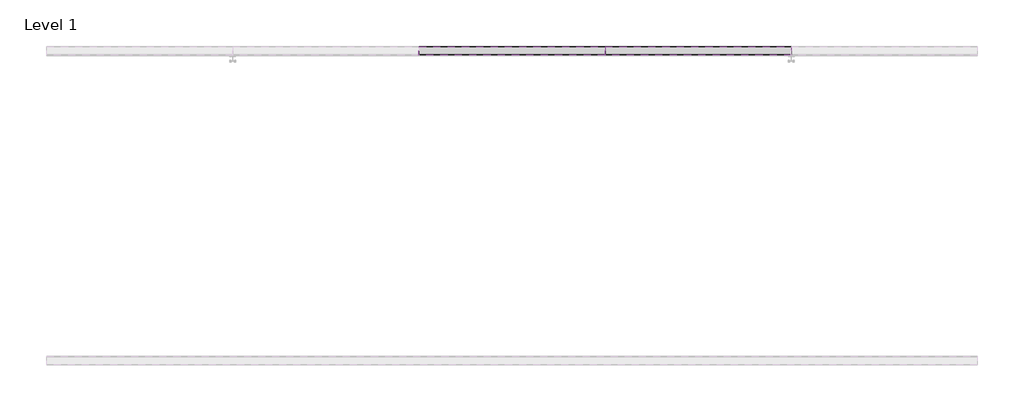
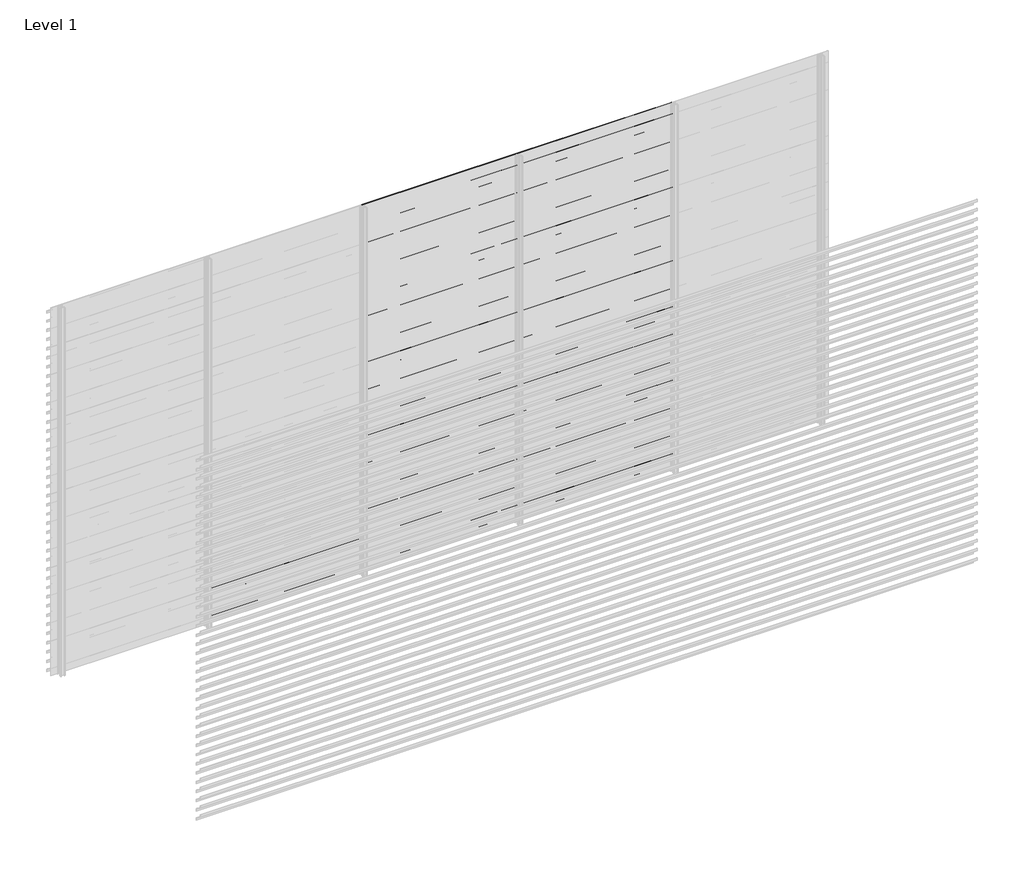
# One storey, part 17 of 55: 84 proxies.
"""IFC4 building model written with IfcOpenShell, lengths in millimetres."""

import ifcopenshell
import ifcopenshell.guid

model = None  # the IFC model being written
_history = None  # IfcOwnerHistory: only IFC2X3 demands one
_inside = {}  # id of a spatial element -> (the spatial element, [elements in it])
_under = {}  # id of a project, library or spatial element -> (it, [spatial elements below it])
_declared = {}  # id of a project -> (the project, [libraries it declares])
_typed = {}  # id of a type object -> (the type object, [elements of that type])
_made_of = {}  # id of a material, layer set ... -> (it, [elements and type objects made of it])


def new_model(schema):
    """Start an empty IFC model of exactly this schema.

    Asked for "IFC4X3", IfcOpenShell would pick the latest addendum, in which some entities
    have other attributes; the version numbers below select the first issue.
    IFC2X3 requires an IfcOwnerHistory on every rooted entity: one is made here for all.
    """
    global model, _history
    if schema == "IFC4X3":
        model = ifcopenshell.file(schema_version=(4, 3, 0, 0))
    else:
        model = ifcopenshell.file(schema=schema)
    _inside.clear()
    _under.clear()
    _declared.clear()
    _typed.clear()
    _made_of.clear()
    _history = None
    if model.schema == "IFC2X3":
        org = make("IfcOrganization", Name="unknown")
        user = make(
            "IfcPersonAndOrganization",
            ThePerson=make("IfcPerson", FamilyName="unknown"),
            TheOrganization=org,
        )
        app = make(
            "IfcApplication",
            ApplicationDeveloper=org,
            Version="unknown",
            ApplicationFullName="unknown",
            ApplicationIdentifier="unknown",
        )
        _history = make(
            "IfcOwnerHistory",
            OwningUser=user,
            OwningApplication=app,
            ChangeAction="ADDED",
            CreationDate=0,
        )
    return model


def make(cls, **values):
    """One entity of the class cls with the attributes given. An attribute that is None is left unset."""
    return model.create_entity(
        cls, **{name: value for name, value in values.items() if value is not None}
    )


def rooted(cls, **values):
    """An entity with a GlobalId (a new one), such as an element, a storey or a relation."""
    return make(cls, GlobalId=ifcopenshell.guid.new(), OwnerHistory=_history, **values)


def si_unit(unit_type, name, prefix=None):
    """IfcSIUnit, for example si_unit("LENGTHUNIT", "METRE", prefix="MILLI")."""
    return make("IfcSIUnit", UnitType=unit_type, Prefix=prefix, Name=name)


def assignment(units):
    """IfcUnitAssignment: the units of a project."""
    return None if units is None else make("IfcUnitAssignment", Units=units)


def point(xyz):
    """IfcCartesianPoint."""
    return None if xyz is None else make("IfcCartesianPoint", Coordinates=xyz)


def direction(xyz):
    """IfcDirection."""
    return None if xyz is None else make("IfcDirection", DirectionRatios=xyz)


def frame(location, z_axis=None, x_axis=None):
    """IfcAxis2Placement3D, a coordinate frame: its origin and axes. An axis left out is left unset."""
    return make(
        "IfcAxis2Placement3D",
        Location=point(location),
        Axis=direction(z_axis),
        RefDirection=direction(x_axis),
    )


def origin():
    """The frame at (0, 0, 0) with its axes left unset."""
    return frame((0.0, 0.0, 0.0))


def place(relative_to, where):
    """IfcLocalPlacement: puts the frame where relative to a parent placement (None: the world)."""
    return make(
        "IfcLocalPlacement", PlacementRelTo=relative_to, RelativePlacement=where
    )


def context(
    kind, dimensions, precision=None, world=None, true_north=None, identifier=None
):
    """IfcGeometricRepresentationContext, for example the 3D "Model" context."""
    return make(
        "IfcGeometricRepresentationContext",
        ContextIdentifier=identifier,
        ContextType=kind,
        CoordinateSpaceDimension=dimensions,
        Precision=precision,
        WorldCoordinateSystem=world,
        TrueNorth=true_north,
    )


def project(units=None, contexts=None):
    """IfcProject with its units and contexts."""
    return rooted(
        "IfcProject",
        Name="project",
        RepresentationContexts=contexts,
        UnitsInContext=assignment(units),
    )


def spatial(cls, under=None, at=None, **own):
    """A site, building, storey or space (cls), placed at a placement, below another one or the project."""
    s = rooted(cls, ObjectPlacement=at, **own)
    if under is not None:
        _under.setdefault(under.id(), (under, []))[1].append(s)
    return s


def polyline(points):
    """IfcPolyline through the points."""
    return make("IfcPolyline", Points=[point(p) for p in points])


def outline(outer, holes=None, kind="AREA"):
    """IfcArbitraryClosedProfileDef: a profile drawn as a closed curve; with holes, ...WithVoids."""
    if holes is None:
        return make("IfcArbitraryClosedProfileDef", ProfileType=kind, OuterCurve=outer)
    return make(
        "IfcArbitraryProfileDefWithVoids",
        ProfileType=kind,
        OuterCurve=outer,
        InnerCurves=holes,
    )


def extrude(swept, where, along, depth):
    """IfcExtrudedAreaSolid: the profile swept, set in the frame where, extruded along a direction by depth."""
    return make(
        "IfcExtrudedAreaSolid",
        SweptArea=swept,
        Position=where,
        ExtrudedDirection=direction(along),
        Depth=depth,
    )


def shape(context_of_items, identifier, shape_type, items):
    """IfcShapeRepresentation: the items that make up one representation, for example the "Body"."""
    return make(
        "IfcShapeRepresentation",
        ContextOfItems=context_of_items,
        RepresentationIdentifier=identifier,
        RepresentationType=shape_type,
        Items=items,
    )


def made_of(thing, what):
    """Note that an element or type object is made of a material, layer set ...; save() writes the relation."""
    if what is not None:
        _made_of.setdefault(what.id(), (what, []))[1].append(thing)
    return thing


def element(
    cls,
    number,
    at=None,
    inside=None,
    cuts=None,
    type_object=None,
    material=None,
    context=None,
    identifier="Body",
    shape_type=None,
    held_by="IfcProductDefinitionShape",
    body=None,
    shapes=None,
    **own,
):
    """One element of the class cls, such as IfcWall. Its Tag is "e" and its number.

    at: its placement. inside: the storey or other place that contains it. cuts: it is an
    opening in that element (IfcRelVoidsElement). A single representation is given by context,
    identifier, shape_type and body (its items); several are given by shapes. held_by: the class
    of the entity that holds the representations. save() writes the other relations.
    """
    e = rooted(cls, Tag="e%d" % number, ObjectPlacement=at, **own)
    if body is not None:
        shapes = [shape(context, identifier, shape_type, body)]
    if shapes is not None:
        e.Representation = make(held_by, Representations=shapes)
    if inside is not None:
        _inside.setdefault(inside.id(), (inside, []))[1].append(e)
    if cuts is not None:
        rooted(
            "IfcRelVoidsElement", RelatingBuildingElement=cuts, RelatedOpeningElement=e
        )
    if type_object is not None:
        _typed.setdefault(type_object.id(), (type_object, []))[1].append(e)
    return made_of(e, material)


def aggregate(whole, parts):
    """IfcRelAggregates: a whole, such as a stair, and the parts it consists of."""
    return rooted("IfcRelAggregates", RelatingObject=whole, RelatedObjects=parts)


def save(model, path):
    """Write the relations noted so far, then the file.

    IfcRelAggregates (storeys below a building ...), IfcRelContainedInSpatialStructure (elements
    in a storey), IfcRelDefinesByType, IfcRelAssociatesMaterial and IfcRelDeclares: one each for
    every whole, place, type object, material and project.
    """
    for whole, parts in _under.values():
        aggregate(whole, parts)
    for where, things in _inside.values():
        rooted(
            "IfcRelContainedInSpatialStructure",
            RelatedElements=things,
            RelatingStructure=where,
        )
    for kind, things in _typed.values():
        rooted("IfcRelDefinesByType", RelatedObjects=things, RelatingType=kind)
    for what, things in _made_of.values():
        rooted("IfcRelAssociatesMaterial", RelatedObjects=things, RelatingMaterial=what)
    for by, libraries in _declared.values():
        rooted("IfcRelDeclares", RelatingContext=by, RelatedDefinitions=libraries)
    model.write(path)


model = new_model("IFC4")

# Units and contexts
model_context = context("Model", 3, world=origin())
ifc_project = project(units=[si_unit("LENGTHUNIT", "METRE", prefix="MILLI")], contexts=[model_context])

# Site, building, storey
site = spatial("IfcSite", under=ifc_project)
building = spatial("IfcBuilding", under=site)
storey = spatial("IfcBuildingStorey", under=building, Name="Level 1", Elevation=0.0)

# Proxies
placement = place(None, origin())
element("IfcBuildingElementProxy", 1, Name="Wall Sweeps", at=placement, inside=storey, context=model_context, shape_type="SweptSolid", body=[
    extrude(outline(polyline([(21581.0540136, 243.5), (21581.0540136, 223.5), (21579.8040136, 224.2216933), (21579.8040136, 242.7872415), (21526.0540136, 280.3158044), (21526.0540136, 300.0), (21527.3040136, 300.0), (21527.3040136, 281.0285629), (21581.0540136, 243.5)])), frame((1666.6208099, 0.0, 0.0), z_axis=(1.0, 0.0, 0.0), x_axis=(0.0, 1.0, 0.0)), (0.0, 0.0, 1.0), 1199.9999999),
])
element("IfcBuildingElementProxy", 2, Name="Wall Sweeps", at=placement, inside=storey, context=model_context, shape_type="SweptSolid", body=[
    extrude(outline(polyline([(21581.0540136, 168.5), (21581.0540136, 148.5), (21579.8040136, 149.2216933), (21579.8040136, 167.7872415), (21526.0540136, 205.3158044), (21526.0540136, 225.0), (21527.3040136, 225.0), (21527.3040136, 206.0285629), (21581.0540136, 168.5)])), frame((1666.6208099, 0.0, 0.0), z_axis=(1.0, 0.0, 0.0), x_axis=(0.0, 1.0, 0.0)), (0.0, 0.0, 1.0), 1199.9999999),
])
element("IfcBuildingElementProxy", 3, Name="Wall Sweeps", at=placement, inside=storey, context=model_context, shape_type="SweptSolid", body=[
    extrude(outline(polyline([(21581.0540136, 93.5), (21581.0540136, 73.5), (21579.8040136, 74.2216933), (21579.8040136, 92.7872415), (21526.0540136, 130.3158044), (21526.0540136, 150.0), (21527.3040136, 150.0), (21527.3040136, 131.0285629), (21581.0540136, 93.5)])), frame((1666.6208099, 0.0, 0.0), z_axis=(1.0, 0.0, 0.0), x_axis=(0.0, 1.0, 0.0)), (0.0, 0.0, 1.0), 1199.9999999),
])
element("IfcBuildingElementProxy", 4, Name="Wall Sweeps", at=placement, inside=storey, context=model_context, shape_type="SweptSolid", body=[
    extrude(outline(polyline([(21581.0540136, 18.5), (21581.0540136, -1.5), (21579.8040136, -0.7783067), (21579.8040136, 17.7872415), (21526.0540136, 55.3158044), (21526.0540136, 75.0), (21527.3040136, 75.0), (21527.3040136, 56.0285629), (21581.0540136, 18.5)])), frame((1666.6208099, 0.0, 0.0), z_axis=(1.0, 0.0, 0.0), x_axis=(0.0, 1.0, 0.0)), (0.0, 0.0, 1.0), 1199.9999999),
])
element("IfcBuildingElementProxy", 5, Name="Wall Sweeps", at=placement, inside=storey, context=model_context, shape_type="SweptSolid", body=[
    extrude(outline(polyline([(21581.0540136, 2943.5), (21581.0540136, 2923.5), (21579.8040136, 2924.2216933), (21579.8040136, 2942.7872415), (21526.0540136, 2980.3158044), (21526.0540136, 3000.0), (21527.3040136, 3000.0), (21527.3040136, 2981.0285629), (21581.0540136, 2943.5)])), frame((2866.6208097, 0.0, 0.0), z_axis=(1.0, 0.0, 0.0), x_axis=(0.0, 1.0, 0.0)), (0.0, 0.0, 1.0), 1199.9999999),
])
element("IfcBuildingElementProxy", 6, Name="Wall Sweeps", at=placement, inside=storey, context=model_context, shape_type="SweptSolid", body=[
    extrude(outline(polyline([(21581.0540136, 2868.5), (21581.0540136, 2848.5), (21579.8040136, 2849.2216933), (21579.8040136, 2867.7872415), (21526.0540136, 2905.3158044), (21526.0540136, 2925.0), (21527.3040136, 2925.0), (21527.3040136, 2906.0285629), (21581.0540136, 2868.5)])), frame((2866.6208097, 0.0, 0.0), z_axis=(1.0, 0.0, 0.0), x_axis=(0.0, 1.0, 0.0)), (0.0, 0.0, 1.0), 1199.9999999),
])
element("IfcBuildingElementProxy", 7, Name="Wall Sweeps", at=placement, inside=storey, context=model_context, shape_type="SweptSolid", body=[
    extrude(outline(polyline([(21581.0540136, 2793.5), (21581.0540136, 2773.5), (21579.8040136, 2774.2216933), (21579.8040136, 2792.7872415), (21526.0540136, 2830.3158044), (21526.0540136, 2850.0), (21527.3040136, 2850.0), (21527.3040136, 2831.0285629), (21581.0540136, 2793.5)])), frame((2866.6208097, 0.0, 0.0), z_axis=(1.0, 0.0, 0.0), x_axis=(0.0, 1.0, 0.0)), (0.0, 0.0, 1.0), 1199.9999999),
])
element("IfcBuildingElementProxy", 8, Name="Wall Sweeps", at=placement, inside=storey, context=model_context, shape_type="SweptSolid", body=[
    extrude(outline(polyline([(21581.0540136, 2718.5), (21581.0540136, 2698.5), (21579.8040136, 2699.2216933), (21579.8040136, 2717.7872415), (21526.0540136, 2755.3158044), (21526.0540136, 2775.0), (21527.3040136, 2775.0), (21527.3040136, 2756.0285629), (21581.0540136, 2718.5)])), frame((2866.6208097, 0.0, 0.0), z_axis=(1.0, 0.0, 0.0), x_axis=(0.0, 1.0, 0.0)), (0.0, 0.0, 1.0), 1199.9999999),
])
element("IfcBuildingElementProxy", 9, Name="Wall Sweeps", at=placement, inside=storey, context=model_context, shape_type="SweptSolid", body=[
    extrude(outline(polyline([(21581.0540136, 2643.5), (21581.0540136, 2623.5), (21579.8040136, 2624.2216933), (21579.8040136, 2642.7872415), (21526.0540136, 2680.3158044), (21526.0540136, 2700.0), (21527.3040136, 2700.0), (21527.3040136, 2681.0285629), (21581.0540136, 2643.5)])), frame((2866.6208097, 0.0, 0.0), z_axis=(1.0, 0.0, 0.0), x_axis=(0.0, 1.0, 0.0)), (0.0, 0.0, 1.0), 1199.9999999),
])
element("IfcBuildingElementProxy", 10, Name="Wall Sweeps", at=placement, inside=storey, context=model_context, shape_type="SweptSolid", body=[
    extrude(outline(polyline([(21581.0540136, 2568.5), (21581.0540136, 2548.5), (21579.8040136, 2549.2216933), (21579.8040136, 2567.7872415), (21526.0540136, 2605.3158044), (21526.0540136, 2625.0), (21527.3040136, 2625.0), (21527.3040136, 2606.0285629), (21581.0540136, 2568.5)])), frame((2866.6208097, 0.0, 0.0), z_axis=(1.0, 0.0, 0.0), x_axis=(0.0, 1.0, 0.0)), (0.0, 0.0, 1.0), 1199.9999999),
])
element("IfcBuildingElementProxy", 11, Name="Wall Sweeps", at=placement, inside=storey, context=model_context, shape_type="SweptSolid", body=[
    extrude(outline(polyline([(21581.0540136, 2493.5), (21581.0540136, 2473.5), (21579.8040136, 2474.2216933), (21579.8040136, 2492.7872415), (21526.0540136, 2530.3158044), (21526.0540136, 2550.0), (21527.3040136, 2550.0), (21527.3040136, 2531.0285629), (21581.0540136, 2493.5)])), frame((2866.6208097, 0.0, 0.0), z_axis=(1.0, 0.0, 0.0), x_axis=(0.0, 1.0, 0.0)), (0.0, 0.0, 1.0), 1199.9999999),
])
element("IfcBuildingElementProxy", 12, Name="Wall Sweeps", at=placement, inside=storey, context=model_context, shape_type="SweptSolid", body=[
    extrude(outline(polyline([(21581.0540136, 2418.5), (21581.0540136, 2398.5), (21579.8040136, 2399.2216933), (21579.8040136, 2417.7872415), (21526.0540136, 2455.3158044), (21526.0540136, 2475.0), (21527.3040136, 2475.0), (21527.3040136, 2456.0285629), (21581.0540136, 2418.5)])), frame((2866.6208097, 0.0, 0.0), z_axis=(1.0, 0.0, 0.0), x_axis=(0.0, 1.0, 0.0)), (0.0, 0.0, 1.0), 1199.9999999),
])
element("IfcBuildingElementProxy", 13, Name="Wall Sweeps", at=placement, inside=storey, context=model_context, shape_type="SweptSolid", body=[
    extrude(outline(polyline([(21581.0540136, 2343.5), (21581.0540136, 2323.5), (21579.8040136, 2324.2216933), (21579.8040136, 2342.7872415), (21526.0540136, 2380.3158044), (21526.0540136, 2400.0), (21527.3040136, 2400.0), (21527.3040136, 2381.0285629), (21581.0540136, 2343.5)])), frame((2866.6208097, 0.0, 0.0), z_axis=(1.0, 0.0, 0.0), x_axis=(0.0, 1.0, 0.0)), (0.0, 0.0, 1.0), 1199.9999999),
])
element("IfcBuildingElementProxy", 14, Name="Wall Sweeps", at=placement, inside=storey, context=model_context, shape_type="SweptSolid", body=[
    extrude(outline(polyline([(21581.0540136, 2268.5), (21581.0540136, 2248.5), (21579.8040136, 2249.2216933), (21579.8040136, 2267.7872415), (21526.0540136, 2305.3158044), (21526.0540136, 2325.0), (21527.3040136, 2325.0), (21527.3040136, 2306.0285629), (21581.0540136, 2268.5)])), frame((2866.6208097, 0.0, 0.0), z_axis=(1.0, 0.0, 0.0), x_axis=(0.0, 1.0, 0.0)), (0.0, 0.0, 1.0), 1199.9999999),
])
element("IfcBuildingElementProxy", 15, Name="Wall Sweeps", at=placement, inside=storey, context=model_context, shape_type="SweptSolid", body=[
    extrude(outline(polyline([(21581.0540136, 2193.5), (21581.0540136, 2173.5), (21579.8040136, 2174.2216933), (21579.8040136, 2192.7872415), (21526.0540136, 2230.3158044), (21526.0540136, 2250.0), (21527.3040136, 2250.0), (21527.3040136, 2231.0285629), (21581.0540136, 2193.5)])), frame((2866.6208097, 0.0, 0.0), z_axis=(1.0, 0.0, 0.0), x_axis=(0.0, 1.0, 0.0)), (0.0, 0.0, 1.0), 1199.9999999),
])
element("IfcBuildingElementProxy", 16, Name="Wall Sweeps", at=placement, inside=storey, context=model_context, shape_type="SweptSolid", body=[
    extrude(outline(polyline([(21581.0540136, 2118.5), (21581.0540136, 2098.5), (21579.8040136, 2099.2216933), (21579.8040136, 2117.7872415), (21526.0540136, 2155.3158044), (21526.0540136, 2175.0), (21527.3040136, 2175.0), (21527.3040136, 2156.0285629), (21581.0540136, 2118.5)])), frame((2866.6208097, 0.0, 0.0), z_axis=(1.0, 0.0, 0.0), x_axis=(0.0, 1.0, 0.0)), (0.0, 0.0, 1.0), 1199.9999999),
])
element("IfcBuildingElementProxy", 17, Name="Wall Sweeps", at=placement, inside=storey, context=model_context, shape_type="SweptSolid", body=[
    extrude(outline(polyline([(21581.0540136, 2043.5), (21581.0540136, 2023.5), (21579.8040136, 2024.2216933), (21579.8040136, 2042.7872415), (21526.0540136, 2080.3158044), (21526.0540136, 2100.0), (21527.3040136, 2100.0), (21527.3040136, 2081.0285629), (21581.0540136, 2043.5)])), frame((2866.6208097, 0.0, 0.0), z_axis=(1.0, 0.0, 0.0), x_axis=(0.0, 1.0, 0.0)), (0.0, 0.0, 1.0), 1199.9999999),
])
element("IfcBuildingElementProxy", 18, Name="Wall Sweeps", at=placement, inside=storey, context=model_context, shape_type="SweptSolid", body=[
    extrude(outline(polyline([(21581.0540136, 1968.5), (21581.0540136, 1948.5), (21579.8040136, 1949.2216933), (21579.8040136, 1967.7872415), (21526.0540136, 2005.3158044), (21526.0540136, 2025.0), (21527.3040136, 2025.0), (21527.3040136, 2006.0285629), (21581.0540136, 1968.5)])), frame((2866.6208097, 0.0, 0.0), z_axis=(1.0, 0.0, 0.0), x_axis=(0.0, 1.0, 0.0)), (0.0, 0.0, 1.0), 1199.9999999),
])
element("IfcBuildingElementProxy", 19, Name="Wall Sweeps", at=placement, inside=storey, context=model_context, shape_type="SweptSolid", body=[
    extrude(outline(polyline([(21581.0540136, 1893.5), (21581.0540136, 1873.5), (21579.8040136, 1874.2216933), (21579.8040136, 1892.7872415), (21526.0540136, 1930.3158044), (21526.0540136, 1950.0), (21527.3040136, 1950.0), (21527.3040136, 1931.0285629), (21581.0540136, 1893.5)])), frame((2866.6208097, 0.0, 0.0), z_axis=(1.0, 0.0, 0.0), x_axis=(0.0, 1.0, 0.0)), (0.0, 0.0, 1.0), 1199.9999999),
])
element("IfcBuildingElementProxy", 20, Name="Wall Sweeps", at=placement, inside=storey, context=model_context, shape_type="SweptSolid", body=[
    extrude(outline(polyline([(21581.0540136, 1818.5), (21581.0540136, 1798.5), (21579.8040136, 1799.2216933), (21579.8040136, 1817.7872415), (21526.0540136, 1855.3158044), (21526.0540136, 1875.0), (21527.3040136, 1875.0), (21527.3040136, 1856.0285629), (21581.0540136, 1818.5)])), frame((2866.6208097, 0.0, 0.0), z_axis=(1.0, 0.0, 0.0), x_axis=(0.0, 1.0, 0.0)), (0.0, 0.0, 1.0), 1199.9999999),
])
element("IfcBuildingElementProxy", 21, Name="Wall Sweeps", at=placement, inside=storey, context=model_context, shape_type="SweptSolid", body=[
    extrude(outline(polyline([(21581.0540136, 1743.5), (21581.0540136, 1723.5), (21579.8040136, 1724.2216933), (21579.8040136, 1742.7872415), (21526.0540136, 1780.3158044), (21526.0540136, 1800.0), (21527.3040136, 1800.0), (21527.3040136, 1781.0285629), (21581.0540136, 1743.5)])), frame((2866.6208097, 0.0, 0.0), z_axis=(1.0, 0.0, 0.0), x_axis=(0.0, 1.0, 0.0)), (0.0, 0.0, 1.0), 1199.9999999),
])
element("IfcBuildingElementProxy", 22, Name="Wall Sweeps", at=placement, inside=storey, context=model_context, shape_type="SweptSolid", body=[
    extrude(outline(polyline([(21581.0540136, 1668.5), (21581.0540136, 1648.5), (21579.8040136, 1649.2216933), (21579.8040136, 1667.7872415), (21526.0540136, 1705.3158044), (21526.0540136, 1725.0), (21527.3040136, 1725.0), (21527.3040136, 1706.0285629), (21581.0540136, 1668.5)])), frame((2866.6208097, 0.0, 0.0), z_axis=(1.0, 0.0, 0.0), x_axis=(0.0, 1.0, 0.0)), (0.0, 0.0, 1.0), 1199.9999999),
])
element("IfcBuildingElementProxy", 23, Name="Wall Sweeps", at=placement, inside=storey, context=model_context, shape_type="SweptSolid", body=[
    extrude(outline(polyline([(21581.0540136, 1593.5), (21581.0540136, 1573.5), (21579.8040136, 1574.2216933), (21579.8040136, 1592.7872415), (21526.0540136, 1630.3158044), (21526.0540136, 1650.0), (21527.3040136, 1650.0), (21527.3040136, 1631.0285629), (21581.0540136, 1593.5)])), frame((2866.6208097, 0.0, 0.0), z_axis=(1.0, 0.0, 0.0), x_axis=(0.0, 1.0, 0.0)), (0.0, 0.0, 1.0), 1199.9999999),
])
element("IfcBuildingElementProxy", 24, Name="Wall Sweeps", at=placement, inside=storey, context=model_context, shape_type="SweptSolid", body=[
    extrude(outline(polyline([(21581.0540136, 1518.5), (21581.0540136, 1498.5), (21579.8040136, 1499.2216933), (21579.8040136, 1517.7872415), (21526.0540136, 1555.3158044), (21526.0540136, 1575.0), (21527.3040136, 1575.0), (21527.3040136, 1556.0285629), (21581.0540136, 1518.5)])), frame((2866.6208097, 0.0, 0.0), z_axis=(1.0, 0.0, 0.0), x_axis=(0.0, 1.0, 0.0)), (0.0, 0.0, 1.0), 1199.9999999),
])
element("IfcBuildingElementProxy", 25, Name="Wall Sweeps", at=placement, inside=storey, context=model_context, shape_type="SweptSolid", body=[
    extrude(outline(polyline([(21581.0540136, 1443.5), (21581.0540136, 1423.5), (21579.8040136, 1424.2216933), (21579.8040136, 1442.7872415), (21526.0540136, 1480.3158044), (21526.0540136, 1500.0), (21527.3040136, 1500.0), (21527.3040136, 1481.0285629), (21581.0540136, 1443.5)])), frame((2866.6208097, 0.0, 0.0), z_axis=(1.0, 0.0, 0.0), x_axis=(0.0, 1.0, 0.0)), (0.0, 0.0, 1.0), 1199.9999999),
])
element("IfcBuildingElementProxy", 26, Name="Wall Sweeps", at=placement, inside=storey, context=model_context, shape_type="SweptSolid", body=[
    extrude(outline(polyline([(21581.0540136, 1368.5), (21581.0540136, 1348.5), (21579.8040136, 1349.2216933), (21579.8040136, 1367.7872415), (21526.0540136, 1405.3158044), (21526.0540136, 1425.0), (21527.3040136, 1425.0), (21527.3040136, 1406.0285629), (21581.0540136, 1368.5)])), frame((2866.6208097, 0.0, 0.0), z_axis=(1.0, 0.0, 0.0), x_axis=(0.0, 1.0, 0.0)), (0.0, 0.0, 1.0), 1199.9999999),
])
element("IfcBuildingElementProxy", 27, Name="Wall Sweeps", at=placement, inside=storey, context=model_context, shape_type="SweptSolid", body=[
    extrude(outline(polyline([(21581.0540136, 1293.5), (21581.0540136, 1273.5), (21579.8040136, 1274.2216933), (21579.8040136, 1292.7872415), (21526.0540136, 1330.3158044), (21526.0540136, 1350.0), (21527.3040136, 1350.0), (21527.3040136, 1331.0285629), (21581.0540136, 1293.5)])), frame((2866.6208097, 0.0, 0.0), z_axis=(1.0, 0.0, 0.0), x_axis=(0.0, 1.0, 0.0)), (0.0, 0.0, 1.0), 1199.9999999),
])
element("IfcBuildingElementProxy", 28, Name="Wall Sweeps", at=placement, inside=storey, context=model_context, shape_type="SweptSolid", body=[
    extrude(outline(polyline([(21581.0540136, 1218.5), (21581.0540136, 1198.5), (21579.8040136, 1199.2216933), (21579.8040136, 1217.7872415), (21526.0540136, 1255.3158044), (21526.0540136, 1275.0), (21527.3040136, 1275.0), (21527.3040136, 1256.0285629), (21581.0540136, 1218.5)])), frame((2866.6208097, 0.0, 0.0), z_axis=(1.0, 0.0, 0.0), x_axis=(0.0, 1.0, 0.0)), (0.0, 0.0, 1.0), 1199.9999999),
])
element("IfcBuildingElementProxy", 29, Name="Wall Sweeps", at=placement, inside=storey, context=model_context, shape_type="SweptSolid", body=[
    extrude(outline(polyline([(21581.0540136, 1143.5), (21581.0540136, 1123.5), (21579.8040136, 1124.2216933), (21579.8040136, 1142.7872415), (21526.0540136, 1180.3158044), (21526.0540136, 1200.0), (21527.3040136, 1200.0), (21527.3040136, 1181.0285629), (21581.0540136, 1143.5)])), frame((2866.6208097, 0.0, 0.0), z_axis=(1.0, 0.0, 0.0), x_axis=(0.0, 1.0, 0.0)), (0.0, 0.0, 1.0), 1199.9999999),
])
element("IfcBuildingElementProxy", 30, Name="Wall Sweeps", at=placement, inside=storey, context=model_context, shape_type="SweptSolid", body=[
    extrude(outline(polyline([(21581.0540136, 1068.5), (21581.0540136, 1048.5), (21579.8040136, 1049.2216933), (21579.8040136, 1067.7872415), (21526.0540136, 1105.3158044), (21526.0540136, 1125.0), (21527.3040136, 1125.0), (21527.3040136, 1106.0285629), (21581.0540136, 1068.5)])), frame((2866.6208097, 0.0, 0.0), z_axis=(1.0, 0.0, 0.0), x_axis=(0.0, 1.0, 0.0)), (0.0, 0.0, 1.0), 1199.9999999),
])
element("IfcBuildingElementProxy", 31, Name="Wall Sweeps", at=placement, inside=storey, context=model_context, shape_type="SweptSolid", body=[
    extrude(outline(polyline([(21581.0540136, 993.5), (21581.0540136, 973.5), (21579.8040136, 974.2216933), (21579.8040136, 992.7872415), (21526.0540136, 1030.3158044), (21526.0540136, 1050.0), (21527.3040136, 1050.0), (21527.3040136, 1031.0285629), (21581.0540136, 993.5)])), frame((2866.6208097, 0.0, 0.0), z_axis=(1.0, 0.0, 0.0), x_axis=(0.0, 1.0, 0.0)), (0.0, 0.0, 1.0), 1199.9999999),
])
element("IfcBuildingElementProxy", 32, Name="Wall Sweeps", at=placement, inside=storey, context=model_context, shape_type="SweptSolid", body=[
    extrude(outline(polyline([(21581.0540136, 918.5), (21581.0540136, 898.5), (21579.8040136, 899.2216933), (21579.8040136, 917.7872415), (21526.0540136, 955.3158044), (21526.0540136, 975.0), (21527.3040136, 975.0), (21527.3040136, 956.0285629), (21581.0540136, 918.5)])), frame((2866.6208097, 0.0, 0.0), z_axis=(1.0, 0.0, 0.0), x_axis=(0.0, 1.0, 0.0)), (0.0, 0.0, 1.0), 1199.9999999),
])
element("IfcBuildingElementProxy", 33, Name="Wall Sweeps", at=placement, inside=storey, context=model_context, shape_type="SweptSolid", body=[
    extrude(outline(polyline([(21581.0540136, 843.5), (21581.0540136, 823.5), (21579.8040136, 824.2216933), (21579.8040136, 842.7872415), (21526.0540136, 880.3158044), (21526.0540136, 900.0), (21527.3040136, 900.0), (21527.3040136, 881.0285629), (21581.0540136, 843.5)])), frame((2866.6208097, 0.0, 0.0), z_axis=(1.0, 0.0, 0.0), x_axis=(0.0, 1.0, 0.0)), (0.0, 0.0, 1.0), 1199.9999999),
])
element("IfcBuildingElementProxy", 34, Name="Wall Sweeps", at=placement, inside=storey, context=model_context, shape_type="SweptSolid", body=[
    extrude(outline(polyline([(21581.0540136, 768.5), (21581.0540136, 748.5), (21579.8040136, 749.2216933), (21579.8040136, 767.7872415), (21526.0540136, 805.3158044), (21526.0540136, 825.0), (21527.3040136, 825.0), (21527.3040136, 806.0285629), (21581.0540136, 768.5)])), frame((2866.6208097, 0.0, 0.0), z_axis=(1.0, 0.0, 0.0), x_axis=(0.0, 1.0, 0.0)), (0.0, 0.0, 1.0), 1199.9999999),
])
element("IfcBuildingElementProxy", 35, Name="Wall Sweeps", at=placement, inside=storey, context=model_context, shape_type="SweptSolid", body=[
    extrude(outline(polyline([(21581.0540136, 693.5), (21581.0540136, 673.5), (21579.8040136, 674.2216933), (21579.8040136, 692.7872415), (21526.0540136, 730.3158044), (21526.0540136, 750.0), (21527.3040136, 750.0), (21527.3040136, 731.0285629), (21581.0540136, 693.5)])), frame((2866.6208097, 0.0, 0.0), z_axis=(1.0, 0.0, 0.0), x_axis=(0.0, 1.0, 0.0)), (0.0, 0.0, 1.0), 1199.9999999),
])
element("IfcBuildingElementProxy", 36, Name="Wall Sweeps", at=placement, inside=storey, context=model_context, shape_type="SweptSolid", body=[
    extrude(outline(polyline([(21581.0540136, 618.5), (21581.0540136, 598.5), (21579.8040136, 599.2216933), (21579.8040136, 617.7872415), (21526.0540136, 655.3158044), (21526.0540136, 675.0), (21527.3040136, 675.0), (21527.3040136, 656.0285629), (21581.0540136, 618.5)])), frame((2866.6208097, 0.0, 0.0), z_axis=(1.0, 0.0, 0.0), x_axis=(0.0, 1.0, 0.0)), (0.0, 0.0, 1.0), 1199.9999999),
])
element("IfcBuildingElementProxy", 37, Name="Wall Sweeps", at=placement, inside=storey, context=model_context, shape_type="SweptSolid", body=[
    extrude(outline(polyline([(21581.0540136, 543.5), (21581.0540136, 523.5), (21579.8040136, 524.2216933), (21579.8040136, 542.7872415), (21526.0540136, 580.3158044), (21526.0540136, 600.0), (21527.3040136, 600.0), (21527.3040136, 581.0285629), (21581.0540136, 543.5)])), frame((2866.6208097, 0.0, 0.0), z_axis=(1.0, 0.0, 0.0), x_axis=(0.0, 1.0, 0.0)), (0.0, 0.0, 1.0), 1199.9999999),
])
element("IfcBuildingElementProxy", 38, Name="Wall Sweeps", at=placement, inside=storey, context=model_context, shape_type="SweptSolid", body=[
    extrude(outline(polyline([(21581.0540136, 468.5), (21581.0540136, 448.5), (21579.8040136, 449.2216933), (21579.8040136, 467.7872415), (21526.0540136, 505.3158044), (21526.0540136, 525.0), (21527.3040136, 525.0), (21527.3040136, 506.0285629), (21581.0540136, 468.5)])), frame((2866.6208097, 0.0, 0.0), z_axis=(1.0, 0.0, 0.0), x_axis=(0.0, 1.0, 0.0)), (0.0, 0.0, 1.0), 1199.9999999),
])
element("IfcBuildingElementProxy", 39, Name="Wall Sweeps", at=placement, inside=storey, context=model_context, shape_type="SweptSolid", body=[
    extrude(outline(polyline([(21581.0540136, 393.5), (21581.0540136, 373.5), (21579.8040136, 374.2216933), (21579.8040136, 392.7872415), (21526.0540136, 430.3158044), (21526.0540136, 450.0), (21527.3040136, 450.0), (21527.3040136, 431.0285629), (21581.0540136, 393.5)])), frame((2866.6208097, 0.0, 0.0), z_axis=(1.0, 0.0, 0.0), x_axis=(0.0, 1.0, 0.0)), (0.0, 0.0, 1.0), 1199.9999999),
])
element("IfcBuildingElementProxy", 40, Name="Wall Sweeps", at=placement, inside=storey, context=model_context, shape_type="SweptSolid", body=[
    extrude(outline(polyline([(21581.0540136, 318.5), (21581.0540136, 298.5), (21579.8040136, 299.2216933), (21579.8040136, 317.7872415), (21526.0540136, 355.3158044), (21526.0540136, 375.0), (21527.3040136, 375.0), (21527.3040136, 356.0285629), (21581.0540136, 318.5)])), frame((2866.6208097, 0.0, 0.0), z_axis=(1.0, 0.0, 0.0), x_axis=(0.0, 1.0, 0.0)), (0.0, 0.0, 1.0), 1199.9999999),
])
element("IfcBuildingElementProxy", 41, Name="Wall Sweeps", at=placement, inside=storey, context=model_context, shape_type="SweptSolid", body=[
    extrude(outline(polyline([(21581.0540136, 243.5), (21581.0540136, 223.5), (21579.8040136, 224.2216933), (21579.8040136, 242.7872415), (21526.0540136, 280.3158044), (21526.0540136, 300.0), (21527.3040136, 300.0), (21527.3040136, 281.0285629), (21581.0540136, 243.5)])), frame((2866.6208097, 0.0, 0.0), z_axis=(1.0, 0.0, 0.0), x_axis=(0.0, 1.0, 0.0)), (0.0, 0.0, 1.0), 1199.9999999),
])
element("IfcBuildingElementProxy", 42, Name="Wall Sweeps", at=placement, inside=storey, context=model_context, shape_type="SweptSolid", body=[
    extrude(outline(polyline([(21581.0540136, 168.5), (21581.0540136, 148.5), (21579.8040136, 149.2216933), (21579.8040136, 167.7872415), (21526.0540136, 205.3158044), (21526.0540136, 225.0), (21527.3040136, 225.0), (21527.3040136, 206.0285629), (21581.0540136, 168.5)])), frame((2866.6208097, 0.0, 0.0), z_axis=(1.0, 0.0, 0.0), x_axis=(0.0, 1.0, 0.0)), (0.0, 0.0, 1.0), 1199.9999999),
])
element("IfcBuildingElementProxy", 43, Name="Wall Sweeps", at=placement, inside=storey, context=model_context, shape_type="SweptSolid", body=[
    extrude(outline(polyline([(21581.0540136, 93.5), (21581.0540136, 73.5), (21579.8040136, 74.2216933), (21579.8040136, 92.7872415), (21526.0540136, 130.3158044), (21526.0540136, 150.0), (21527.3040136, 150.0), (21527.3040136, 131.0285629), (21581.0540136, 93.5)])), frame((2866.6208097, 0.0, 0.0), z_axis=(1.0, 0.0, 0.0), x_axis=(0.0, 1.0, 0.0)), (0.0, 0.0, 1.0), 1199.9999999),
])
element("IfcBuildingElementProxy", 44, Name="Wall Sweeps", at=placement, inside=storey, context=model_context, shape_type="SweptSolid", body=[
    extrude(outline(polyline([(21581.0540136, 18.5), (21581.0540136, -1.5), (21579.8040136, -0.7783067), (21579.8040136, 17.7872415), (21526.0540136, 55.3158044), (21526.0540136, 75.0), (21527.3040136, 75.0), (21527.3040136, 56.0285629), (21581.0540136, 18.5)])), frame((2866.6208097, 0.0, 0.0), z_axis=(1.0, 0.0, 0.0), x_axis=(0.0, 1.0, 0.0)), (0.0, 0.0, 1.0), 1199.9999999),
])
element("IfcBuildingElementProxy", 45, Name="Wall Sweeps", at=placement, inside=storey, context=model_context, shape_type="SweptSolid", body=[
    extrude(outline(polyline([(21581.0540136, 2943.5), (21581.0540136, 2923.5), (21579.8040136, 2924.2216933), (21579.8040136, 2942.7872415), (21526.0540136, 2980.3158044), (21526.0540136, 3000.0), (21527.3040136, 3000.0), (21527.3040136, 2981.0285629), (21581.0540136, 2943.5)])), frame((4066.6208096, 0.0, 0.0), z_axis=(1.0, 0.0, 0.0), x_axis=(0.0, 1.0, 0.0)), (0.0, 0.0, 1.0), 1199.9999999),
])
element("IfcBuildingElementProxy", 46, Name="Wall Sweeps", at=placement, inside=storey, context=model_context, shape_type="SweptSolid", body=[
    extrude(outline(polyline([(21581.0540136, 2868.5), (21581.0540136, 2848.5), (21579.8040136, 2849.2216933), (21579.8040136, 2867.7872415), (21526.0540136, 2905.3158044), (21526.0540136, 2925.0), (21527.3040136, 2925.0), (21527.3040136, 2906.0285629), (21581.0540136, 2868.5)])), frame((4066.6208096, 0.0, 0.0), z_axis=(1.0, 0.0, 0.0), x_axis=(0.0, 1.0, 0.0)), (0.0, 0.0, 1.0), 1199.9999999),
])
element("IfcBuildingElementProxy", 47, Name="Wall Sweeps", at=placement, inside=storey, context=model_context, shape_type="SweptSolid", body=[
    extrude(outline(polyline([(21581.0540136, 2793.5), (21581.0540136, 2773.5), (21579.8040136, 2774.2216933), (21579.8040136, 2792.7872415), (21526.0540136, 2830.3158044), (21526.0540136, 2850.0), (21527.3040136, 2850.0), (21527.3040136, 2831.0285629), (21581.0540136, 2793.5)])), frame((4066.6208096, 0.0, 0.0), z_axis=(1.0, 0.0, 0.0), x_axis=(0.0, 1.0, 0.0)), (0.0, 0.0, 1.0), 1199.9999999),
])
element("IfcBuildingElementProxy", 48, Name="Wall Sweeps", at=placement, inside=storey, context=model_context, shape_type="SweptSolid", body=[
    extrude(outline(polyline([(21581.0540136, 2718.5), (21581.0540136, 2698.5), (21579.8040136, 2699.2216933), (21579.8040136, 2717.7872415), (21526.0540136, 2755.3158044), (21526.0540136, 2775.0), (21527.3040136, 2775.0), (21527.3040136, 2756.0285629), (21581.0540136, 2718.5)])), frame((4066.6208096, 0.0, 0.0), z_axis=(1.0, 0.0, 0.0), x_axis=(0.0, 1.0, 0.0)), (0.0, 0.0, 1.0), 1199.9999999),
])
element("IfcBuildingElementProxy", 49, Name="Wall Sweeps", at=placement, inside=storey, context=model_context, shape_type="SweptSolid", body=[
    extrude(outline(polyline([(21581.0540136, 2643.5), (21581.0540136, 2623.5), (21579.8040136, 2624.2216933), (21579.8040136, 2642.7872415), (21526.0540136, 2680.3158044), (21526.0540136, 2700.0), (21527.3040136, 2700.0), (21527.3040136, 2681.0285629), (21581.0540136, 2643.5)])), frame((4066.6208096, 0.0, 0.0), z_axis=(1.0, 0.0, 0.0), x_axis=(0.0, 1.0, 0.0)), (0.0, 0.0, 1.0), 1199.9999999),
])
element("IfcBuildingElementProxy", 50, Name="Wall Sweeps", at=placement, inside=storey, context=model_context, shape_type="SweptSolid", body=[
    extrude(outline(polyline([(21581.0540136, 2568.5), (21581.0540136, 2548.5), (21579.8040136, 2549.2216933), (21579.8040136, 2567.7872415), (21526.0540136, 2605.3158044), (21526.0540136, 2625.0), (21527.3040136, 2625.0), (21527.3040136, 2606.0285629), (21581.0540136, 2568.5)])), frame((4066.6208096, 0.0, 0.0), z_axis=(1.0, 0.0, 0.0), x_axis=(0.0, 1.0, 0.0)), (0.0, 0.0, 1.0), 1199.9999999),
])
element("IfcBuildingElementProxy", 51, Name="Wall Sweeps", at=placement, inside=storey, context=model_context, shape_type="SweptSolid", body=[
    extrude(outline(polyline([(21581.0540136, 2493.5), (21581.0540136, 2473.5), (21579.8040136, 2474.2216933), (21579.8040136, 2492.7872415), (21526.0540136, 2530.3158044), (21526.0540136, 2550.0), (21527.3040136, 2550.0), (21527.3040136, 2531.0285629), (21581.0540136, 2493.5)])), frame((4066.6208096, 0.0, 0.0), z_axis=(1.0, 0.0, 0.0), x_axis=(0.0, 1.0, 0.0)), (0.0, 0.0, 1.0), 1199.9999999),
])
element("IfcBuildingElementProxy", 52, Name="Wall Sweeps", at=placement, inside=storey, context=model_context, shape_type="SweptSolid", body=[
    extrude(outline(polyline([(21581.0540136, 2418.5), (21581.0540136, 2398.5), (21579.8040136, 2399.2216933), (21579.8040136, 2417.7872415), (21526.0540136, 2455.3158044), (21526.0540136, 2475.0), (21527.3040136, 2475.0), (21527.3040136, 2456.0285629), (21581.0540136, 2418.5)])), frame((4066.6208096, 0.0, 0.0), z_axis=(1.0, 0.0, 0.0), x_axis=(0.0, 1.0, 0.0)), (0.0, 0.0, 1.0), 1199.9999999),
])
element("IfcBuildingElementProxy", 53, Name="Wall Sweeps", at=placement, inside=storey, context=model_context, shape_type="SweptSolid", body=[
    extrude(outline(polyline([(21581.0540136, 2343.5), (21581.0540136, 2323.5), (21579.8040136, 2324.2216933), (21579.8040136, 2342.7872415), (21526.0540136, 2380.3158044), (21526.0540136, 2400.0), (21527.3040136, 2400.0), (21527.3040136, 2381.0285629), (21581.0540136, 2343.5)])), frame((4066.6208096, 0.0, 0.0), z_axis=(1.0, 0.0, 0.0), x_axis=(0.0, 1.0, 0.0)), (0.0, 0.0, 1.0), 1199.9999999),
])
element("IfcBuildingElementProxy", 54, Name="Wall Sweeps", at=placement, inside=storey, context=model_context, shape_type="SweptSolid", body=[
    extrude(outline(polyline([(21581.0540136, 2268.5), (21581.0540136, 2248.5), (21579.8040136, 2249.2216933), (21579.8040136, 2267.7872415), (21526.0540136, 2305.3158044), (21526.0540136, 2325.0), (21527.3040136, 2325.0), (21527.3040136, 2306.0285629), (21581.0540136, 2268.5)])), frame((4066.6208096, 0.0, 0.0), z_axis=(1.0, 0.0, 0.0), x_axis=(0.0, 1.0, 0.0)), (0.0, 0.0, 1.0), 1199.9999999),
])
element("IfcBuildingElementProxy", 55, Name="Wall Sweeps", at=placement, inside=storey, context=model_context, shape_type="SweptSolid", body=[
    extrude(outline(polyline([(21581.0540136, 2193.5), (21581.0540136, 2173.5), (21579.8040136, 2174.2216933), (21579.8040136, 2192.7872415), (21526.0540136, 2230.3158044), (21526.0540136, 2250.0), (21527.3040136, 2250.0), (21527.3040136, 2231.0285629), (21581.0540136, 2193.5)])), frame((4066.6208096, 0.0, 0.0), z_axis=(1.0, 0.0, 0.0), x_axis=(0.0, 1.0, 0.0)), (0.0, 0.0, 1.0), 1199.9999999),
])
element("IfcBuildingElementProxy", 56, Name="Wall Sweeps", at=placement, inside=storey, context=model_context, shape_type="SweptSolid", body=[
    extrude(outline(polyline([(21581.0540136, 2118.5), (21581.0540136, 2098.5), (21579.8040136, 2099.2216933), (21579.8040136, 2117.7872415), (21526.0540136, 2155.3158044), (21526.0540136, 2175.0), (21527.3040136, 2175.0), (21527.3040136, 2156.0285629), (21581.0540136, 2118.5)])), frame((4066.6208096, 0.0, 0.0), z_axis=(1.0, 0.0, 0.0), x_axis=(0.0, 1.0, 0.0)), (0.0, 0.0, 1.0), 1199.9999999),
])
element("IfcBuildingElementProxy", 57, Name="Wall Sweeps", at=placement, inside=storey, context=model_context, shape_type="SweptSolid", body=[
    extrude(outline(polyline([(21581.0540136, 2043.5), (21581.0540136, 2023.5), (21579.8040136, 2024.2216933), (21579.8040136, 2042.7872415), (21526.0540136, 2080.3158044), (21526.0540136, 2100.0), (21527.3040136, 2100.0), (21527.3040136, 2081.0285629), (21581.0540136, 2043.5)])), frame((4066.6208096, 0.0, 0.0), z_axis=(1.0, 0.0, 0.0), x_axis=(0.0, 1.0, 0.0)), (0.0, 0.0, 1.0), 1199.9999999),
])
element("IfcBuildingElementProxy", 58, Name="Wall Sweeps", at=placement, inside=storey, context=model_context, shape_type="SweptSolid", body=[
    extrude(outline(polyline([(21581.0540136, 1968.5), (21581.0540136, 1948.5), (21579.8040136, 1949.2216933), (21579.8040136, 1967.7872415), (21526.0540136, 2005.3158044), (21526.0540136, 2025.0), (21527.3040136, 2025.0), (21527.3040136, 2006.0285629), (21581.0540136, 1968.5)])), frame((4066.6208096, 0.0, 0.0), z_axis=(1.0, 0.0, 0.0), x_axis=(0.0, 1.0, 0.0)), (0.0, 0.0, 1.0), 1199.9999999),
])
element("IfcBuildingElementProxy", 59, Name="Wall Sweeps", at=placement, inside=storey, context=model_context, shape_type="SweptSolid", body=[
    extrude(outline(polyline([(21581.0540136, 1893.5), (21581.0540136, 1873.5), (21579.8040136, 1874.2216933), (21579.8040136, 1892.7872415), (21526.0540136, 1930.3158044), (21526.0540136, 1950.0), (21527.3040136, 1950.0), (21527.3040136, 1931.0285629), (21581.0540136, 1893.5)])), frame((4066.6208096, 0.0, 0.0), z_axis=(1.0, 0.0, 0.0), x_axis=(0.0, 1.0, 0.0)), (0.0, 0.0, 1.0), 1199.9999999),
])
element("IfcBuildingElementProxy", 60, Name="Wall Sweeps", at=placement, inside=storey, context=model_context, shape_type="SweptSolid", body=[
    extrude(outline(polyline([(21581.0540136, 1818.5), (21581.0540136, 1798.5), (21579.8040136, 1799.2216933), (21579.8040136, 1817.7872415), (21526.0540136, 1855.3158044), (21526.0540136, 1875.0), (21527.3040136, 1875.0), (21527.3040136, 1856.0285629), (21581.0540136, 1818.5)])), frame((4066.6208096, 0.0, 0.0), z_axis=(1.0, 0.0, 0.0), x_axis=(0.0, 1.0, 0.0)), (0.0, 0.0, 1.0), 1199.9999999),
])
element("IfcBuildingElementProxy", 61, Name="Wall Sweeps", at=placement, inside=storey, context=model_context, shape_type="SweptSolid", body=[
    extrude(outline(polyline([(21581.0540136, 1743.5), (21581.0540136, 1723.5), (21579.8040136, 1724.2216933), (21579.8040136, 1742.7872415), (21526.0540136, 1780.3158044), (21526.0540136, 1800.0), (21527.3040136, 1800.0), (21527.3040136, 1781.0285629), (21581.0540136, 1743.5)])), frame((4066.6208096, 0.0, 0.0), z_axis=(1.0, 0.0, 0.0), x_axis=(0.0, 1.0, 0.0)), (0.0, 0.0, 1.0), 1199.9999999),
])
element("IfcBuildingElementProxy", 62, Name="Wall Sweeps", at=placement, inside=storey, context=model_context, shape_type="SweptSolid", body=[
    extrude(outline(polyline([(21581.0540136, 1668.5), (21581.0540136, 1648.5), (21579.8040136, 1649.2216933), (21579.8040136, 1667.7872415), (21526.0540136, 1705.3158044), (21526.0540136, 1725.0), (21527.3040136, 1725.0), (21527.3040136, 1706.0285629), (21581.0540136, 1668.5)])), frame((4066.6208096, 0.0, 0.0), z_axis=(1.0, 0.0, 0.0), x_axis=(0.0, 1.0, 0.0)), (0.0, 0.0, 1.0), 1199.9999999),
])
element("IfcBuildingElementProxy", 63, Name="Wall Sweeps", at=placement, inside=storey, context=model_context, shape_type="SweptSolid", body=[
    extrude(outline(polyline([(21581.0540136, 1593.5), (21581.0540136, 1573.5), (21579.8040136, 1574.2216933), (21579.8040136, 1592.7872415), (21526.0540136, 1630.3158044), (21526.0540136, 1650.0), (21527.3040136, 1650.0), (21527.3040136, 1631.0285629), (21581.0540136, 1593.5)])), frame((4066.6208096, 0.0, 0.0), z_axis=(1.0, 0.0, 0.0), x_axis=(0.0, 1.0, 0.0)), (0.0, 0.0, 1.0), 1199.9999999),
])
element("IfcBuildingElementProxy", 64, Name="Wall Sweeps", at=placement, inside=storey, context=model_context, shape_type="SweptSolid", body=[
    extrude(outline(polyline([(21581.0540136, 1518.5), (21581.0540136, 1498.5), (21579.8040136, 1499.2216933), (21579.8040136, 1517.7872415), (21526.0540136, 1555.3158044), (21526.0540136, 1575.0), (21527.3040136, 1575.0), (21527.3040136, 1556.0285629), (21581.0540136, 1518.5)])), frame((4066.6208096, 0.0, 0.0), z_axis=(1.0, 0.0, 0.0), x_axis=(0.0, 1.0, 0.0)), (0.0, 0.0, 1.0), 1199.9999999),
])
element("IfcBuildingElementProxy", 65, Name="Wall Sweeps", at=placement, inside=storey, context=model_context, shape_type="SweptSolid", body=[
    extrude(outline(polyline([(21581.0540136, 1443.5), (21581.0540136, 1423.5), (21579.8040136, 1424.2216933), (21579.8040136, 1442.7872415), (21526.0540136, 1480.3158044), (21526.0540136, 1500.0), (21527.3040136, 1500.0), (21527.3040136, 1481.0285629), (21581.0540136, 1443.5)])), frame((4066.6208096, 0.0, 0.0), z_axis=(1.0, 0.0, 0.0), x_axis=(0.0, 1.0, 0.0)), (0.0, 0.0, 1.0), 1199.9999999),
])
element("IfcBuildingElementProxy", 66, Name="Wall Sweeps", at=placement, inside=storey, context=model_context, shape_type="SweptSolid", body=[
    extrude(outline(polyline([(21581.0540136, 1368.5), (21581.0540136, 1348.5), (21579.8040136, 1349.2216933), (21579.8040136, 1367.7872415), (21526.0540136, 1405.3158044), (21526.0540136, 1425.0), (21527.3040136, 1425.0), (21527.3040136, 1406.0285629), (21581.0540136, 1368.5)])), frame((4066.6208096, 0.0, 0.0), z_axis=(1.0, 0.0, 0.0), x_axis=(0.0, 1.0, 0.0)), (0.0, 0.0, 1.0), 1199.9999999),
])
element("IfcBuildingElementProxy", 67, Name="Wall Sweeps", at=placement, inside=storey, context=model_context, shape_type="SweptSolid", body=[
    extrude(outline(polyline([(21581.0540136, 1293.5), (21581.0540136, 1273.5), (21579.8040136, 1274.2216933), (21579.8040136, 1292.7872415), (21526.0540136, 1330.3158044), (21526.0540136, 1350.0), (21527.3040136, 1350.0), (21527.3040136, 1331.0285629), (21581.0540136, 1293.5)])), frame((4066.6208096, 0.0, 0.0), z_axis=(1.0, 0.0, 0.0), x_axis=(0.0, 1.0, 0.0)), (0.0, 0.0, 1.0), 1199.9999999),
])
element("IfcBuildingElementProxy", 68, Name="Wall Sweeps", at=placement, inside=storey, context=model_context, shape_type="SweptSolid", body=[
    extrude(outline(polyline([(21581.0540136, 1218.5), (21581.0540136, 1198.5), (21579.8040136, 1199.2216933), (21579.8040136, 1217.7872415), (21526.0540136, 1255.3158044), (21526.0540136, 1275.0), (21527.3040136, 1275.0), (21527.3040136, 1256.0285629), (21581.0540136, 1218.5)])), frame((4066.6208096, 0.0, 0.0), z_axis=(1.0, 0.0, 0.0), x_axis=(0.0, 1.0, 0.0)), (0.0, 0.0, 1.0), 1199.9999999),
])
element("IfcBuildingElementProxy", 69, Name="Wall Sweeps", at=placement, inside=storey, context=model_context, shape_type="SweptSolid", body=[
    extrude(outline(polyline([(21581.0540136, 1143.5), (21581.0540136, 1123.5), (21579.8040136, 1124.2216933), (21579.8040136, 1142.7872415), (21526.0540136, 1180.3158044), (21526.0540136, 1200.0), (21527.3040136, 1200.0), (21527.3040136, 1181.0285629), (21581.0540136, 1143.5)])), frame((4066.6208096, 0.0, 0.0), z_axis=(1.0, 0.0, 0.0), x_axis=(0.0, 1.0, 0.0)), (0.0, 0.0, 1.0), 1199.9999999),
])
element("IfcBuildingElementProxy", 70, Name="Wall Sweeps", at=placement, inside=storey, context=model_context, shape_type="SweptSolid", body=[
    extrude(outline(polyline([(21581.0540136, 1068.5), (21581.0540136, 1048.5), (21579.8040136, 1049.2216933), (21579.8040136, 1067.7872415), (21526.0540136, 1105.3158044), (21526.0540136, 1125.0), (21527.3040136, 1125.0), (21527.3040136, 1106.0285629), (21581.0540136, 1068.5)])), frame((4066.6208096, 0.0, 0.0), z_axis=(1.0, 0.0, 0.0), x_axis=(0.0, 1.0, 0.0)), (0.0, 0.0, 1.0), 1199.9999999),
])
element("IfcBuildingElementProxy", 71, Name="Wall Sweeps", at=placement, inside=storey, context=model_context, shape_type="SweptSolid", body=[
    extrude(outline(polyline([(21581.0540136, 993.5), (21581.0540136, 973.5), (21579.8040136, 974.2216933), (21579.8040136, 992.7872415), (21526.0540136, 1030.3158044), (21526.0540136, 1050.0), (21527.3040136, 1050.0), (21527.3040136, 1031.0285629), (21581.0540136, 993.5)])), frame((4066.6208096, 0.0, 0.0), z_axis=(1.0, 0.0, 0.0), x_axis=(0.0, 1.0, 0.0)), (0.0, 0.0, 1.0), 1199.9999999),
])
element("IfcBuildingElementProxy", 72, Name="Wall Sweeps", at=placement, inside=storey, context=model_context, shape_type="SweptSolid", body=[
    extrude(outline(polyline([(21581.0540136, 918.5), (21581.0540136, 898.5), (21579.8040136, 899.2216933), (21579.8040136, 917.7872415), (21526.0540136, 955.3158044), (21526.0540136, 975.0), (21527.3040136, 975.0), (21527.3040136, 956.0285629), (21581.0540136, 918.5)])), frame((4066.6208096, 0.0, 0.0), z_axis=(1.0, 0.0, 0.0), x_axis=(0.0, 1.0, 0.0)), (0.0, 0.0, 1.0), 1199.9999999),
])
element("IfcBuildingElementProxy", 73, Name="Wall Sweeps", at=placement, inside=storey, context=model_context, shape_type="SweptSolid", body=[
    extrude(outline(polyline([(21581.0540136, 843.5), (21581.0540136, 823.5), (21579.8040136, 824.2216933), (21579.8040136, 842.7872415), (21526.0540136, 880.3158044), (21526.0540136, 900.0), (21527.3040136, 900.0), (21527.3040136, 881.0285629), (21581.0540136, 843.5)])), frame((4066.6208096, 0.0, 0.0), z_axis=(1.0, 0.0, 0.0), x_axis=(0.0, 1.0, 0.0)), (0.0, 0.0, 1.0), 1199.9999999),
])
element("IfcBuildingElementProxy", 74, Name="Wall Sweeps", at=placement, inside=storey, context=model_context, shape_type="SweptSolid", body=[
    extrude(outline(polyline([(21581.0540136, 768.5), (21581.0540136, 748.5), (21579.8040136, 749.2216933), (21579.8040136, 767.7872415), (21526.0540136, 805.3158044), (21526.0540136, 825.0), (21527.3040136, 825.0), (21527.3040136, 806.0285629), (21581.0540136, 768.5)])), frame((4066.6208096, 0.0, 0.0), z_axis=(1.0, 0.0, 0.0), x_axis=(0.0, 1.0, 0.0)), (0.0, 0.0, 1.0), 1199.9999999),
])
element("IfcBuildingElementProxy", 75, Name="Wall Sweeps", at=placement, inside=storey, context=model_context, shape_type="SweptSolid", body=[
    extrude(outline(polyline([(21581.0540136, 693.5), (21581.0540136, 673.5), (21579.8040136, 674.2216933), (21579.8040136, 692.7872415), (21526.0540136, 730.3158044), (21526.0540136, 750.0), (21527.3040136, 750.0), (21527.3040136, 731.0285629), (21581.0540136, 693.5)])), frame((4066.6208096, 0.0, 0.0), z_axis=(1.0, 0.0, 0.0), x_axis=(0.0, 1.0, 0.0)), (0.0, 0.0, 1.0), 1199.9999999),
])
element("IfcBuildingElementProxy", 76, Name="Wall Sweeps", at=placement, inside=storey, context=model_context, shape_type="SweptSolid", body=[
    extrude(outline(polyline([(21581.0540136, 618.5), (21581.0540136, 598.5), (21579.8040136, 599.2216933), (21579.8040136, 617.7872415), (21526.0540136, 655.3158044), (21526.0540136, 675.0), (21527.3040136, 675.0), (21527.3040136, 656.0285629), (21581.0540136, 618.5)])), frame((4066.6208096, 0.0, 0.0), z_axis=(1.0, 0.0, 0.0), x_axis=(0.0, 1.0, 0.0)), (0.0, 0.0, 1.0), 1199.9999999),
])
element("IfcBuildingElementProxy", 77, Name="Wall Sweeps", at=placement, inside=storey, context=model_context, shape_type="SweptSolid", body=[
    extrude(outline(polyline([(21581.0540136, 543.5), (21581.0540136, 523.5), (21579.8040136, 524.2216933), (21579.8040136, 542.7872415), (21526.0540136, 580.3158044), (21526.0540136, 600.0), (21527.3040136, 600.0), (21527.3040136, 581.0285629), (21581.0540136, 543.5)])), frame((4066.6208096, 0.0, 0.0), z_axis=(1.0, 0.0, 0.0), x_axis=(0.0, 1.0, 0.0)), (0.0, 0.0, 1.0), 1199.9999999),
])
element("IfcBuildingElementProxy", 78, Name="Wall Sweeps", at=placement, inside=storey, context=model_context, shape_type="SweptSolid", body=[
    extrude(outline(polyline([(21581.0540136, 468.5), (21581.0540136, 448.5), (21579.8040136, 449.2216933), (21579.8040136, 467.7872415), (21526.0540136, 505.3158044), (21526.0540136, 525.0), (21527.3040136, 525.0), (21527.3040136, 506.0285629), (21581.0540136, 468.5)])), frame((4066.6208096, 0.0, 0.0), z_axis=(1.0, 0.0, 0.0), x_axis=(0.0, 1.0, 0.0)), (0.0, 0.0, 1.0), 1199.9999999),
])
element("IfcBuildingElementProxy", 79, Name="Wall Sweeps", at=placement, inside=storey, context=model_context, shape_type="SweptSolid", body=[
    extrude(outline(polyline([(21581.0540136, 393.5), (21581.0540136, 373.5), (21579.8040136, 374.2216933), (21579.8040136, 392.7872415), (21526.0540136, 430.3158044), (21526.0540136, 450.0), (21527.3040136, 450.0), (21527.3040136, 431.0285629), (21581.0540136, 393.5)])), frame((4066.6208096, 0.0, 0.0), z_axis=(1.0, 0.0, 0.0), x_axis=(0.0, 1.0, 0.0)), (0.0, 0.0, 1.0), 1199.9999999),
])
element("IfcBuildingElementProxy", 80, Name="Wall Sweeps", at=placement, inside=storey, context=model_context, shape_type="SweptSolid", body=[
    extrude(outline(polyline([(21581.0540136, 318.5), (21581.0540136, 298.5), (21579.8040136, 299.2216933), (21579.8040136, 317.7872415), (21526.0540136, 355.3158044), (21526.0540136, 375.0), (21527.3040136, 375.0), (21527.3040136, 356.0285629), (21581.0540136, 318.5)])), frame((4066.6208096, 0.0, 0.0), z_axis=(1.0, 0.0, 0.0), x_axis=(0.0, 1.0, 0.0)), (0.0, 0.0, 1.0), 1199.9999999),
])
element("IfcBuildingElementProxy", 81, Name="Wall Sweeps", at=placement, inside=storey, context=model_context, shape_type="SweptSolid", body=[
    extrude(outline(polyline([(21581.0540136, 243.5), (21581.0540136, 223.5), (21579.8040136, 224.2216933), (21579.8040136, 242.7872415), (21526.0540136, 280.3158044), (21526.0540136, 300.0), (21527.3040136, 300.0), (21527.3040136, 281.0285629), (21581.0540136, 243.5)])), frame((4066.6208096, 0.0, 0.0), z_axis=(1.0, 0.0, 0.0), x_axis=(0.0, 1.0, 0.0)), (0.0, 0.0, 1.0), 1199.9999999),
])
element("IfcBuildingElementProxy", 82, Name="Wall Sweeps", at=placement, inside=storey, context=model_context, shape_type="SweptSolid", body=[
    extrude(outline(polyline([(21581.0540136, 168.5), (21581.0540136, 148.5), (21579.8040136, 149.2216933), (21579.8040136, 167.7872415), (21526.0540136, 205.3158044), (21526.0540136, 225.0), (21527.3040136, 225.0), (21527.3040136, 206.0285629), (21581.0540136, 168.5)])), frame((4066.6208096, 0.0, 0.0), z_axis=(1.0, 0.0, 0.0), x_axis=(0.0, 1.0, 0.0)), (0.0, 0.0, 1.0), 1199.9999999),
])
element("IfcBuildingElementProxy", 83, Name="Wall Sweeps", at=placement, inside=storey, context=model_context, shape_type="SweptSolid", body=[
    extrude(outline(polyline([(21581.0540136, 93.5), (21581.0540136, 73.5), (21579.8040136, 74.2216933), (21579.8040136, 92.7872415), (21526.0540136, 130.3158044), (21526.0540136, 150.0), (21527.3040136, 150.0), (21527.3040136, 131.0285629), (21581.0540136, 93.5)])), frame((4066.6208096, 0.0, 0.0), z_axis=(1.0, 0.0, 0.0), x_axis=(0.0, 1.0, 0.0)), (0.0, 0.0, 1.0), 1199.9999999),
])
element("IfcBuildingElementProxy", 84, Name="Wall Sweeps", at=placement, inside=storey, context=model_context, shape_type="SweptSolid", body=[
    extrude(outline(polyline([(21581.0540136, 18.5), (21581.0540136, -1.5), (21579.8040136, -0.7783067), (21579.8040136, 17.7872415), (21526.0540136, 55.3158044), (21526.0540136, 75.0), (21527.3040136, 75.0), (21527.3040136, 56.0285629), (21581.0540136, 18.5)])), frame((4066.6208096, 0.0, 0.0), z_axis=(1.0, 0.0, 0.0), x_axis=(0.0, 1.0, 0.0)), (0.0, 0.0, 1.0), 1199.9999999),
])

save(model, "model.ifc")
